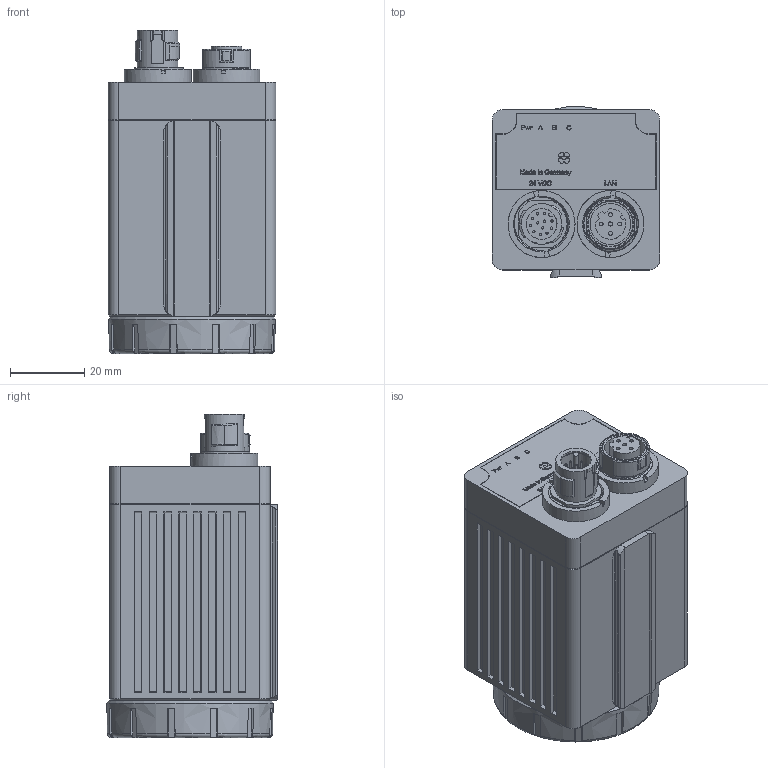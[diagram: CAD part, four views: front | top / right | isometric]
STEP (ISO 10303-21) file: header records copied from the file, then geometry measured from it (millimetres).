
FILE_DESCRIPTION(/* description */ (''),/* implementation_level */ '2;1');
FILE_NAME(/* name */ 'C:\#Vault-WorkDir\Konstruktions-Dokumente\Projekte\VISOR\Visor 2\Katalogzeichnungen\153-13555_VISOR 2 C-Mount.stp',/* time_stamp */ '2018-10-25T09:48:33+02:00',/* author */ ('SensoPart'),/* organization */ ('SensoPart'),/* preprocessor_version */ 'ST-DEVELOPER v17',/* originating_system */ 'Autodesk Inventor 2018',/* authorisation */ '');
FILE_SCHEMA (('AUTOMOTIVE_DESIGN { 1 0 10303 214 3 1 1 }'));
Length unit declared in the file: millimetre
Products named in the file (1): GH-ENG-0026583_Shrinkwrap_2
Bounding box: 45 x 45.92 x 86.78 mm (x, y, z)
Volume: 132009.8 mm3; surface area: 25450.6 mm2
Topology: 3 solids, 3 shells, 566 faces, 1752 edges, 1289 vertices
Faces by surface type: plane 361, cylinder 118, bspline 47, cone 34, torus 6
Full cylindrical faces by diameter (mm): 0.6 x12, 1.05 x4, 1.1 x1, 8.3 x1, 9.45 x1, 9.6 x1, 10.9 x1, 10.95 x1, 18 x2, 21.3 x1, 24.536 x1, 40 x2, 42 x1
Entity records: 24152 total; most frequent: CARTESIAN_POINT 8697, ORIENTED_EDGE 3504, DIRECTION 2798, EDGE_CURVE 1752, VERTEX_POINT 1289, LINE 974, VECTOR 974, AXIS2_PLACEMENT_3D 912
